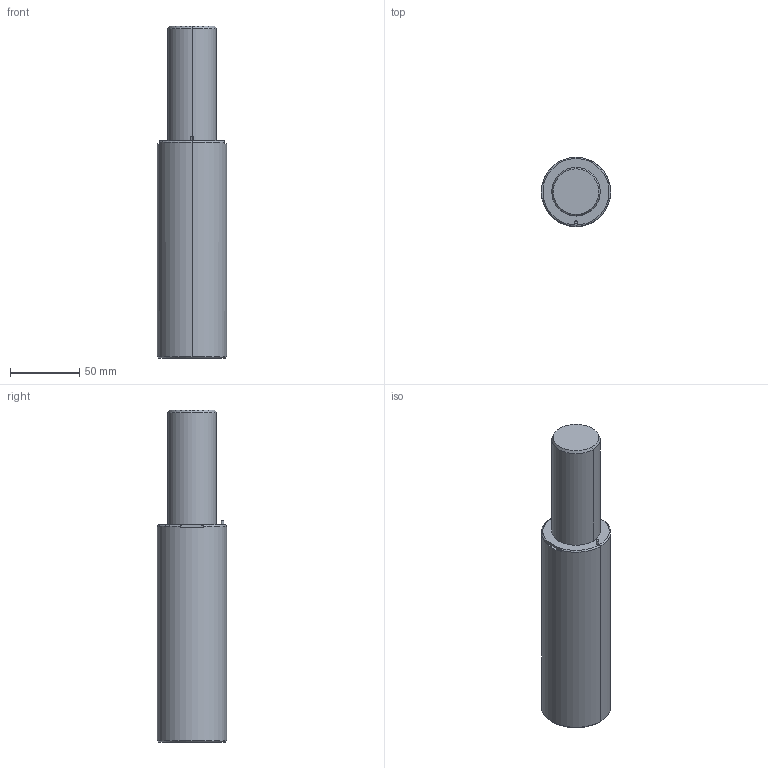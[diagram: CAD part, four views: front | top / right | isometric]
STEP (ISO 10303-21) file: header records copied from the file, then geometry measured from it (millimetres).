
FILE_DESCRIPTION(/* description */ (''),/* implementation_level */ '2;1');
FILE_NAME(/* name */ '3d_gsx50-80_03963_r00.stp',/* time_stamp */ '2011-01-10T14:15:12+09:00',/* author */ ('MISUMI'),/* organization */ (''),/* preprocessor_version */ 'ST-DEVELOPER v11',/* originating_system */ 'UGS - NX 5.0',/* authorisation */ '');
FILE_SCHEMA (('CONFIG_CONTROL_DESIGN'));
Length unit declared in the file: millimetre
Products named in the file (1): 3d_gsx50-80_03963_r00
Bounding box: 50 x 50 x 240 mm (x, y, z)
Volume: 384564 mm3; surface area: 39183 mm2
Topology: 1 solids, 1 shells, 59 faces, 130 edges, 78 vertices
Faces by surface type: cylinder 28, plane 15, cone 12, torus 4
Entity records: 1724 total; most frequent: CARTESIAN_POINT 320, DIRECTION 308, ORIENTED_EDGE 244, AXIS2_PLACEMENT_3D 130, EDGE_CURVE 122, VERTEX_POINT 78, EDGE_LOOP 72, CIRCLE 70
